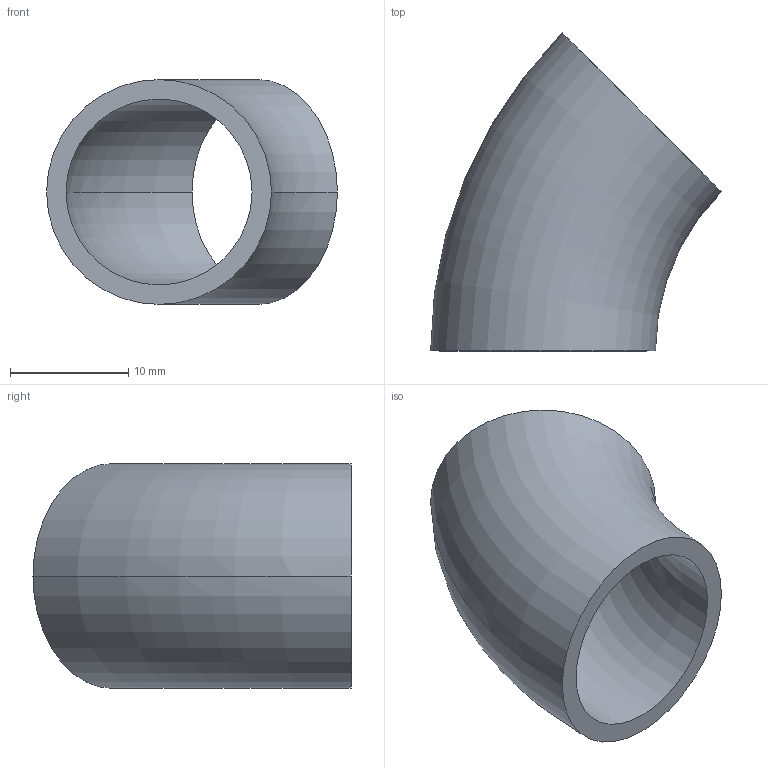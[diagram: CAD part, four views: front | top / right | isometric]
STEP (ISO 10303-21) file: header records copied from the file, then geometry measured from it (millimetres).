
FILE_DESCRIPTION (( 'STEP AP203' ), '1' );
FILE_NAME ('E2WK.75.STEP', '2018-04-30T18:13:47', ( 'vneprd' ), ( 'Microsoft' ), 'SwSTEP 2.0', 'SolidWorks 2014', '' );
FILE_SCHEMA (( 'CONFIG_CONTROL_DESIGN' ));
Length unit declared in the file: inch
Products named in the file (1): E2WK.75
Bounding box: 24.63 x 26.94 x 19.05 mm (x, y, z)
Volume: 2025.3 mm3; surface area: 2634 mm2
Topology: 1 solids, 1 shells, 6 faces, 12 edges, 8 vertices
Faces by surface type: torus 4, plane 2
Entity records: 251 total; most frequent: DIRECTION 38, CARTESIAN_POINT 27, ORIENTED_EDGE 24, AXIS2_PLACEMENT_3D 19, CIRCLE 12, EDGE_CURVE 12, VERTEX_POINT 8, PERSON_AND_ORGANIZATION 8
